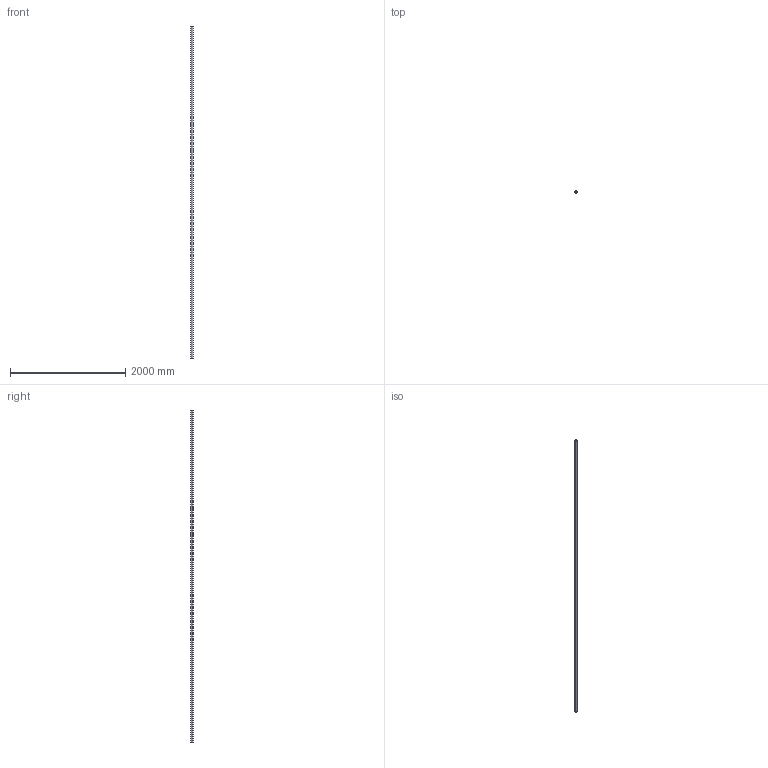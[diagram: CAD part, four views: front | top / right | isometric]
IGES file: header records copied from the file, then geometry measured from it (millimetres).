
Start section: SolidWorks IGES file using analytic representation for surfaces
Global section: file name: C:\Users\IanO\Desktop\L1771_v2\L1771.40_v2\L1771.40_v2_20230705_IGES\L1771.40-5750.igs; native system: SolidWorks 2019; preprocessor: SolidWorks 2019; author: IanO; date: 230705.163333; units: millimetre
Bounding box: 40 x 40 x 5750 mm (x, y, z)
Surface area: 1229644.5 mm2 (no closed solid volume)
Topology: 0 solids, 0 shells, 6 faces, 272 edges, 272 vertices
Faces by surface type: revolution 4, bspline 2
